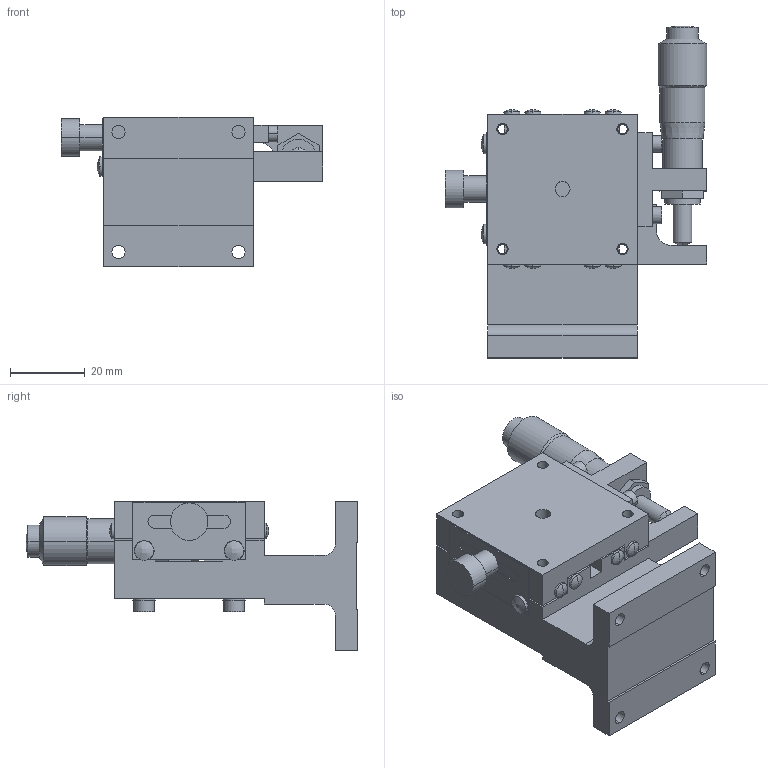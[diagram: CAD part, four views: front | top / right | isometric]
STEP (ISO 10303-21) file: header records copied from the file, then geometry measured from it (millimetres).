
FILE_DESCRIPTION (( 'STEP AP203' ), '1' );
FILE_NAME ('LZ-4047-S1.STEP', '2011-06-27T03:57:23', ( ' ' ), ( ' ' ), 'SwSTEP 2.0', 'SolidWorks 2010', '' );
FILE_SCHEMA (( 'CONFIG_CONTROL_DESIGN' ));
Length unit declared in the file: millimetre
Products named in the file (3): LZ-4047-S1-1; LZ-4047-S1; LZ-4047-S1-2
Assembly tree (2 placements, depth 2):
  LZ-4047-S1
    LZ-4047-S1-2
    LZ-4047-S1-1
Bounding box: 69.8 x 88.5 x 40 mm (x, y, z)
Volume: 65154.8 mm3; surface area: 27506.8 mm2
Topology: 3 solids, 9 shells, 329 faces, 795 edges, 507 vertices
Faces by surface type: plane 148, cylinder 133, cone 26, sphere 18, bspline 2, torus 2
Entity records: 10426 total; most frequent: CARTESIAN_POINT 2044, DIRECTION 1809, ORIENTED_EDGE 1586, EDGE_CURVE 793, AXIS2_PLACEMENT_3D 688, VERTEX_POINT 507, VECTOR 433, LINE 433
